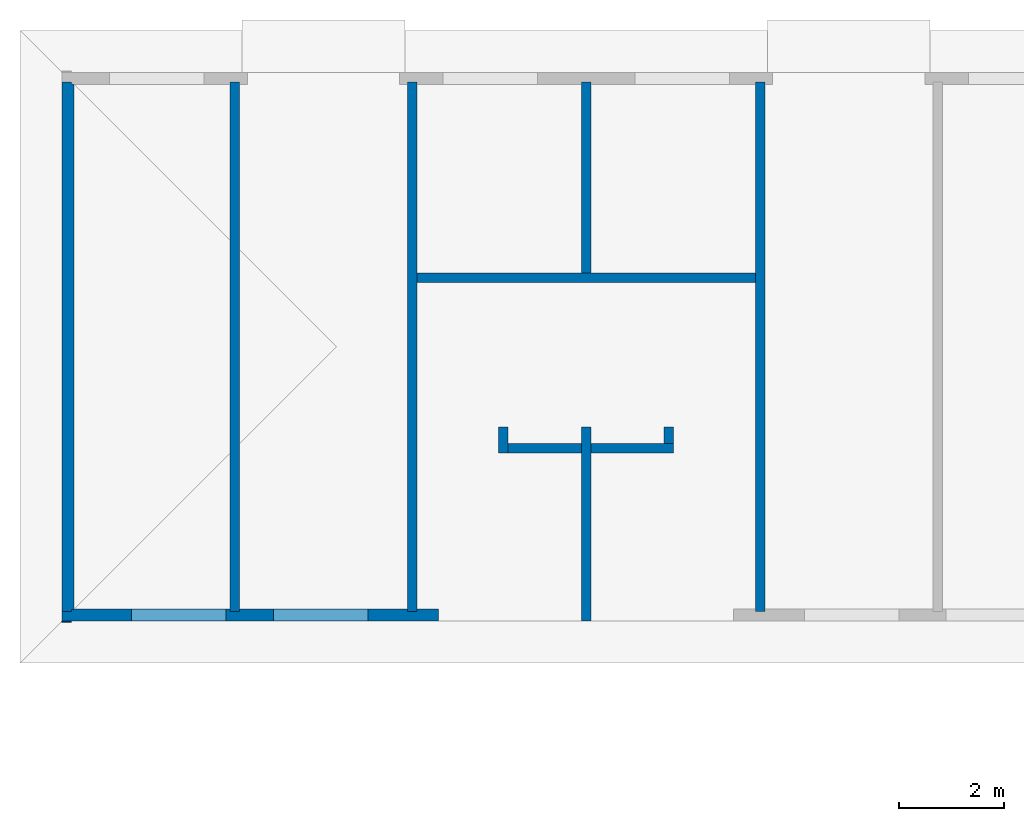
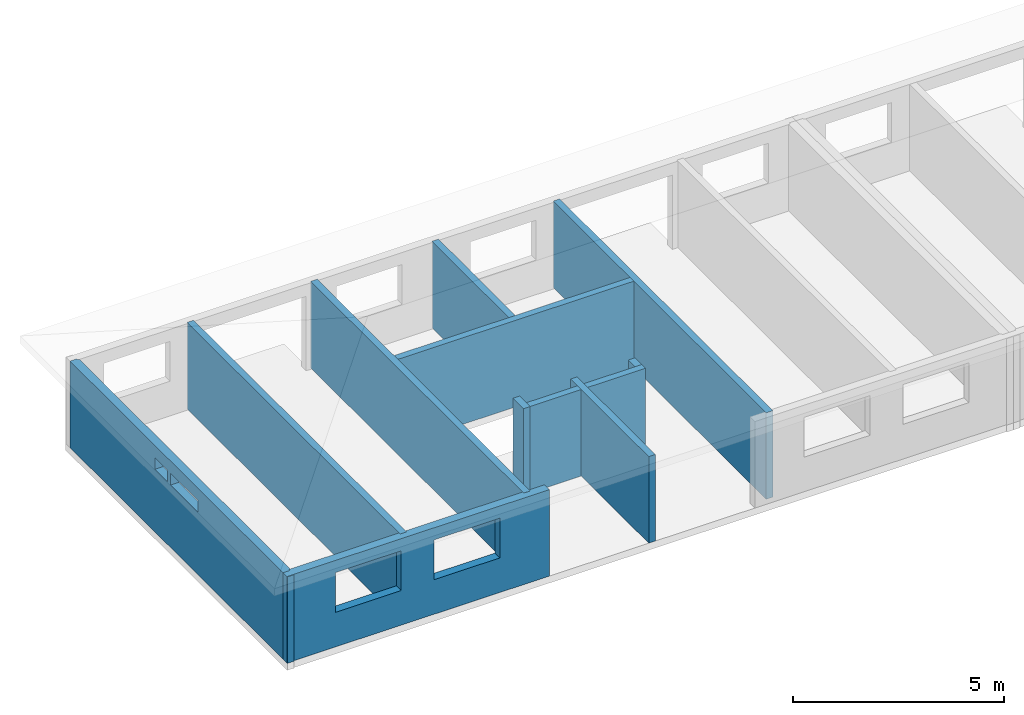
# One storey, part 2 of 9: 13 walls, 4 openings.
"""IFC2X3 building model written with IfcOpenShell, lengths in millimetres."""

from ifc_helpers import new_model, entity, si_unit, converted_unit, frame, frame_2d, origin, origin_with_axes, place, context, subcontext, project, spatial, polyline, rectangle, outline, extrude, material, layer, layer_set, layer_usage, element, save


model = new_model("IFC2X3")

# Units and contexts
model_context = context("Model", 3, precision=1e-05, world=origin())
plan_context = context("Plan", 3, precision=1e-05, world=origin())
body_context = subcontext(model_context, "Body", "Model", "MODEL_VIEW")
ifc_project = project(units=[si_unit("LENGTHUNIT", "METRE", prefix="MILLI"), converted_unit("PLANEANGLEUNIT", "DEGREE", entity("IfcPlaneAngleMeasure", 0.0174532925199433), si_unit("PLANEANGLEUNIT", "RADIAN"), dimensions=[0, 0, 0, 0, 0, 0, 0]), si_unit("AREAUNIT", "SQUARE_METRE"), si_unit("VOLUMEUNIT", "CUBIC_METRE")], contexts=[model_context, plan_context])

# Building, storey
building_placement = place(None, origin())
building = spatial("IfcBuilding", under=ifc_project, at=building_placement, Name="Bâtiment", CompositionType="ELEMENT")
storey_placement = place(building_placement, frame((0.0, 0.0, 8100.0), z_axis=(0.0, 0.0, 1.0), x_axis=(1.0, 0.0, 0.0)))
storey = spatial("IfcBuildingStorey", under=building, at=storey_placement, Name="r+3", CompositionType="ELEMENT", Elevation=8100.0)

# Wall, openings
ifc_material_1 = material(Name="moellons")
ifc_layer_1 = layer(ifc_material_1, 180.0)
ifc_material_2 = material(Name="briquettes")
ifc_layer_2 = layer(ifc_material_2, 40.0)
ifc_material_3 = material(Name="enduit platre")
ifc_layer_3 = layer(ifc_material_3, 10.0)
ifc_layer_set_1 = layer_set([ifc_layer_1, ifc_layer_2, ifc_layer_3])
ifc_layer_usage_1 = layer_usage(ifc_layer_set_1, "AXIS2", "POSITIVE", 0.0)
wall_1_placement = place(storey_placement, frame((-3.671044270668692e-12, 10290.07776548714, 0.0), z_axis=(0.0, 0.0, 1.0), x_axis=(-1.836970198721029e-16, -1.0, 0.0)))
wall_1 = element("IfcWallStandardCase", 1, at=wall_1_placement, inside=storey, material=ifc_layer_usage_1, context=body_context, shape_type="SweptSolid", body=[
    extrude(outline(polyline([(0.0, 0.0), (10090.00021457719, 0.0), (10090.00021457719, 180.0), (10050.00021457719, 180.0), (10050.00021457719, 220.0), (10040.00021457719, 220.0), (10040.00021457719, 230.0), (49.99999999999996, 230.0), (49.99999999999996, 220.0), (39.99999999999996, 220.0), (39.99999999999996, 180.0), (-3.306546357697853e-14, 180.0), (0.0, 0.0)])), origin_with_axes(), (0.0, 0.0, 1.0), 2500.0),
])
opening_1_placement = place(wall_1_placement, frame((4769.999999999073, -1.312664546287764e-27, 1810.0), z_axis=(0.0, 1.0, 0.0), x_axis=(0.0, 0.0, 1.0)))
element("IfcOpeningElement", 2, at=opening_1_placement, cuts=wall_1, Name="Baie de fenêtre", ObjectType="Opening", context=body_context, shape_type="SweptSolid", body=[
    extrude(rectangle(XDim=340.0, YDim=1300.0, at=frame_2d((170.0, 650.0), x_axis=(1.0, 0.0))), origin_with_axes(), (0.0, 0.0, 1.0), 230.0000000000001),
])
opening_2_placement = place(wall_1_placement, frame((4020.000000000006, -8.077935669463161e-28, 1810.0), z_axis=(0.0, 1.0, 0.0), x_axis=(0.0, 0.0, 1.0)))
element("IfcOpeningElement", 3, at=opening_2_placement, cuts=wall_1, Name="Baie de fenêtre", ObjectType="Opening", context=body_context, shape_type="SweptSolid", body=[
    extrude(rectangle(XDim=340.0, YDim=600.0, at=frame_2d((170.0, 300.0), x_axis=(1.0, 0.0))), origin_with_axes(), (0.0, 0.0, 1.0), 230.0),
])

ifc_material_4 = material(Name="moellons")
ifc_layer_4 = layer(ifc_material_4, 180.0000000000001)
ifc_material_5 = material(Name="briquettes")
ifc_layer_5 = layer(ifc_material_5, 40.0)
ifc_material_6 = material(Name="enduit platre")
ifc_layer_6 = layer(ifc_material_6, 10.0)
ifc_layer_set_2 = layer_set([ifc_layer_4, ifc_layer_5, ifc_layer_6])
ifc_layer_usage_2 = layer_usage(ifc_layer_set_2, "AXIS2", "POSITIVE", 0.0)
wall_2_placement = place(storey_placement, frame((-5.557612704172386e-12, 20.0775509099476, 0.0), z_axis=(0.0, 0.0, 1.0), x_axis=(1.0, 0.0, 0.0)))
wall_2 = element("IfcWallStandardCase", 4, at=wall_2_placement, inside=storey, material=ifc_layer_usage_2, context=body_context, shape_type="SweptSolid", body=[
    extrude(outline(polyline([(6760.000000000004, 230.0000000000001), (6760.000000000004, 180.0000000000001), (6580.000000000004, 180.0000000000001), (6580.000000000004, 230.0000000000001), (3380.000000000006, 230.0000000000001), (3380.000000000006, 180.0000000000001), (3200.000000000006, 180.0000000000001), (3200.000000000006, 230.0000000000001), (220.0000000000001, 230.0000000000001), (220.0000000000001, 220.0000000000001), (180.0000000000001, 220.0000000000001), (180.0000000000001, 180.0000000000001), (3.306546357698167e-14, 180.0000000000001), (0.0, 0.0), (7175.000546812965, 0.0), (7175.000546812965, 230.0000000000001), (6760.000000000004, 230.0000000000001)])), origin_with_axes(), (0.0, 0.0, 1.0), 2500.0),
])
opening_3_placement = place(wall_2_placement, frame((1325.000000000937, 0.0, 1000.0), z_axis=(0.0, 1.0, 0.0), x_axis=(0.0, 0.0, 1.0)))
element("IfcOpeningElement", 5, at=opening_3_placement, cuts=wall_2, Name="Baie de fenêtre", ObjectType="Opening", context=body_context, shape_type="SweptSolid", body=[
    extrude(rectangle(XDim=1150.0, YDim=1800.0, at=frame_2d((575.0, 900.0), x_axis=(1.0, 0.0))), origin_with_axes(), (0.0, 0.0, 1.0), 230.0000000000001),
])
opening_4_placement = place(wall_2_placement, frame((4025.00000000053, 0.0, 1000.0), z_axis=(0.0, 1.0, 0.0), x_axis=(0.0, 0.0, 1.0)))
element("IfcOpeningElement", 6, at=opening_4_placement, cuts=wall_2, Name="Baie de fenêtre", ObjectType="Opening", context=body_context, shape_type="SweptSolid", body=[
    extrude(rectangle(XDim=1150.0, YDim=1800.0, at=frame_2d((575.0, 899.9999999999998), x_axis=(1.0, 0.0))), origin_with_axes(), (0.0, 0.0, 1.0), 230.0),
])

# Walls
ifc_material_7 = material(Name="moellons")
ifc_layer_7 = layer(ifc_material_7, 180.0)
ifc_layer_set_3 = layer_set([ifc_layer_7])
ifc_layer_usage_3 = layer_usage(ifc_layer_set_3, "AXIS2", "POSITIVE", 0.0)
wall_3_placement = place(storey_placement, frame((3380.0, 200.0775509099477, 0.0), z_axis=(0.0, 0.0, 1.0), x_axis=(4.506911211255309e-17, 1.0, 0.0)))
element("IfcWallStandardCase", 7, at=wall_3_placement, inside=storey, material=ifc_layer_usage_3, context=body_context, shape_type="SweptSolid", body=[
    extrude(rectangle(XDim=10090.00021457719, YDim=180.0, at=frame_2d((5045.000107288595, 90.0), x_axis=(1.0, 0.0))), origin_with_axes(), (0.0, 0.0, 1.0), 2500.0),
])
ifc_material_8 = material(Name="moellons")
ifc_layer_8 = layer(ifc_material_8, 180.0)
ifc_layer_set_4 = layer_set([ifc_layer_8])
ifc_layer_usage_4 = layer_usage(ifc_layer_set_4, "AXIS2", "POSITIVE", 0.0)
wall_4_placement = place(storey_placement, frame((6759.999999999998, 200.0775509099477, 0.0), z_axis=(0.0, 0.0, 1.0), x_axis=(0.0, 1.0, 0.0)))
element("IfcWallStandardCase", 8, at=wall_4_placement, inside=storey, material=ifc_layer_usage_4, context=body_context, shape_type="SweptSolid", body=[
    extrude(rectangle(XDim=10090.00021457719, YDim=180.0, at=frame_2d((5045.000107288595, 90.0), x_axis=(1.0, 0.0))), origin_with_axes(), (0.0, 0.0, 1.0), 2500.0),
])
ifc_material_9 = material(Name="moellons")
ifc_layer_9 = layer(ifc_material_9, 180.0)
ifc_layer_set_5 = layer_set([ifc_layer_9])
ifc_layer_usage_5 = layer_usage(ifc_layer_set_5, "AXIS2", "POSITIVE", 0.0)
wall_5_placement = place(storey_placement, frame((13389.99993810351, 200.0775509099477, 0.0), z_axis=(0.0, 0.0, 1.0), x_axis=(0.0, 1.0, 0.0)))
element("IfcWallStandardCase", 9, at=wall_5_placement, inside=storey, material=ifc_layer_usage_5, context=body_context, shape_type="SweptSolid", body=[
    extrude(rectangle(XDim=10090.00021457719, YDim=180.0, at=frame_2d((5045.000107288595, 90.0), x_axis=(1.0, 0.0))), origin_with_axes(), (0.0, 0.0, 1.0), 2500.0),
])
ifc_material_10 = material(Name="moellons")
ifc_layer_10 = layer(ifc_material_10, 180.0)
ifc_layer_set_6 = layer_set([ifc_layer_10])
ifc_layer_usage_6 = layer_usage(ifc_layer_set_6, "AXIS2", "POSITIVE", 0.0)
wall_6_placement = place(storey_placement, frame((10075.0, 6650.077765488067, 0.0), z_axis=(0.0, 0.0, 1.0), x_axis=(0.0, 1.0, 0.0)))
element("IfcWallStandardCase", 10, at=wall_6_placement, inside=storey, material=ifc_layer_usage_6, context=body_context, shape_type="SweptSolid", body=[
    extrude(rectangle(XDim=3639.999999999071, YDim=180.0, at=frame_2d((1819.999999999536, 90.0), x_axis=(1.0, 0.0))), origin_with_axes(), (0.0, 0.0, 1.0), 2500.0),
])
ifc_material_11 = material(Name="moellons")
ifc_layer_11 = layer(ifc_material_11, 180.0)
ifc_layer_set_7 = layer_set([ifc_layer_11])
ifc_layer_usage_7 = layer_usage(ifc_layer_set_7, "AXIS2", "POSITIVE", 0.0)
wall_7_placement = place(storey_placement, frame((13209.99947974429, 6650.077765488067, 0.0), z_axis=(0.0, 0.0, 1.0), x_axis=(-1.0, 0.0, 0.0)))
element("IfcWallStandardCase", 11, at=wall_7_placement, inside=storey, material=ifc_layer_usage_7, context=body_context, shape_type="SweptSolid", body=[
    extrude(rectangle(XDim=6449.999479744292, YDim=180.0, at=frame_2d((3224.999739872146, 90.0), x_axis=(1.0, 0.0))), origin_with_axes(), (0.0, 0.0, 1.0), 2500.0),
])
ifc_material_12 = material(Name="moellons")
ifc_layer_12 = layer(ifc_material_12, 180.0)
ifc_layer_set_8 = layer_set([ifc_layer_12])
ifc_layer_usage_8 = layer_usage(ifc_layer_set_8, "AXIS2", "POSITIVE", 0.0)
wall_8_placement = place(storey_placement, frame((8499.999453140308, 3220.077765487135, 0.0), z_axis=(0.0, 0.0, 1.0), x_axis=(0.0, 1.0, 0.0)))
element("IfcWallStandardCase", 12, at=wall_8_placement, inside=storey, material=ifc_layer_usage_8, context=body_context, shape_type="SweptSolid", body=[
    extrude(rectangle(XDim=500.0, YDim=180.0, at=frame_2d((250.0, 90.0), x_axis=(1.0, 0.0))), origin_with_axes(), (0.0, 0.0, 1.0), 2500.0),
])
ifc_material_13 = material(Name="moellons")
ifc_layer_13 = layer(ifc_material_13, 180.0)
ifc_layer_set_9 = layer_set([ifc_layer_13])
ifc_layer_usage_9 = layer_usage(ifc_layer_set_9, "AXIS2", "POSITIVE", 0.0)
wall_9_placement = place(storey_placement, frame((11649.99945314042, 3400.077765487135, 0.0), z_axis=(0.0, 0.0, 1.0), x_axis=(-1.0, 0.0, 0.0)))
element("IfcWallStandardCase", 13, at=wall_9_placement, inside=storey, material=ifc_layer_usage_9, context=body_context, shape_type="SweptSolid", body=[
    extrude(outline(polyline([(0.0, 0.0), (1574.999453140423, 0.0), (1574.999453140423, 180.0), (0.0, 180.0), (0.0, 0.0)])), origin_with_axes(), (0.0, 0.0, 1.0), 2500.0),
])
ifc_material_14 = material(Name="moellons")
ifc_layer_14 = layer(ifc_material_14, 180.0)
ifc_layer_set_10 = layer_set([ifc_layer_14])
ifc_layer_usage_10 = layer_usage(ifc_layer_set_10, "AXIS2", "POSITIVE", 0.0)
wall_10_placement = place(storey_placement, frame((11649.99945314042, 3400.077765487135, 0.0), z_axis=(0.0, 0.0, 1.0), x_axis=(-1.0, 0.0, 0.0)))
element("IfcWallStandardCase", 14, at=wall_10_placement, inside=storey, material=ifc_layer_usage_10, context=body_context, shape_type="SweptSolid", body=[
    extrude(outline(polyline([(1754.999453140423, 0.0), (3150.000000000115, 0.0), (3150.000000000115, 180.0), (1754.999453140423, 180.0), (1754.999453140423, 0.0)])), origin_with_axes(), (0.0, 0.0, 1.0), 2500.0),
])
ifc_material_15 = material(Name="moellons")
ifc_layer_15 = layer(ifc_material_15, 180.0)
ifc_layer_set_11 = layer_set([ifc_layer_15])
ifc_layer_usage_11 = layer_usage(ifc_layer_set_11, "AXIS2", "POSITIVE", 0.0)
wall_11_placement = place(storey_placement, frame((11469.99945314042, 3720.077765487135, 0.0), z_axis=(0.0, 0.0, 1.0), x_axis=(0.0, -1.0, 0.0)))
element("IfcWallStandardCase", 15, at=wall_11_placement, inside=storey, material=ifc_layer_usage_11, context=body_context, shape_type="SweptSolid", body=[
    extrude(rectangle(XDim=320.0, YDim=180.0, at=frame_2d((160.0, 90.0), x_axis=(1.0, 0.0))), origin_with_axes(), (0.0, 0.0, 1.0), 2500.0),
])
ifc_material_16 = material(Name="moellons")
ifc_layer_16 = layer(ifc_material_16, 180.0)
ifc_layer_set_12 = layer_set([ifc_layer_16])
ifc_layer_usage_12 = layer_usage(ifc_layer_set_12, "AXIS2", "POSITIVE", 0.0)
wall_12_placement = place(storey_placement, frame((10075.0, 20.03821782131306, 0.0), z_axis=(0.0, 0.0, 1.0), x_axis=(0.0, 1.0, 0.0)))
element("IfcWallStandardCase", 16, at=wall_12_placement, inside=storey, material=ifc_layer_usage_12, context=body_context, shape_type="SweptSolid", body=[
    extrude(rectangle(XDim=3700.039547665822, YDim=180.0, at=frame_2d((1850.019773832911, 90.0), x_axis=(1.0, 0.0))), origin_with_axes(), (0.0, 0.0, 1.0), 2500.0),
])
ifc_material_17 = material(Name="moellons")
ifc_layer_17 = layer(ifc_material_17, 20.0775509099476)
ifc_layer_set_13 = layer_set([ifc_layer_17])
ifc_layer_usage_13 = layer_usage(ifc_layer_set_13, "AXIS2", "POSITIVE", 0.0)
wall_13_placement = place(storey_placement, frame((-5.557612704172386e-12, 20.0775509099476, 0.0), z_axis=(0.0, 0.0, 1.0), x_axis=(1.0, -1.836970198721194e-16, 0.0)))
element("IfcWallStandardCase", 17, at=wall_13_placement, inside=storey, material=ifc_layer_usage_13, context=body_context, shape_type="SweptSolid", body=[
    extrude(rectangle(XDim=180.0, YDim=20.0775509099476, at=frame_2d((90.0, 10.0387754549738), x_axis=(1.0, 0.0))), frame((0.0, -20.0775509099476, 0.0), z_axis=(0.0, 0.0, 1.0), x_axis=(1.0, 0.0, 0.0)), (0.0, 0.0, 1.0), 2500.0),
])

save(model, "model.ifc")
